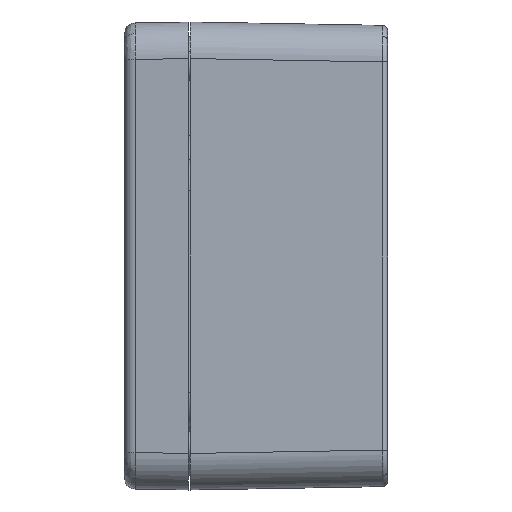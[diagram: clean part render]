
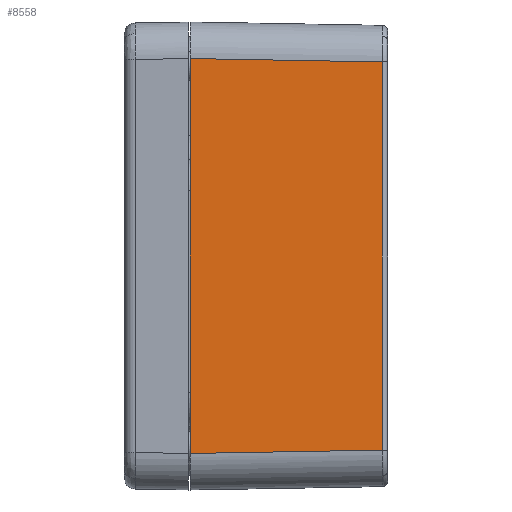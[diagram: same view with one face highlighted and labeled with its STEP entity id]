
A CAD part, left-side view. The second image highlights one B-rep face of the part: STEP entity #8558.
In plain terms, the highlighted planar face has unit normal (-1, -0.018, 0).
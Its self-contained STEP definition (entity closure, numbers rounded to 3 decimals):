
#145 = VERTEX_POINT ( 'NONE', #5013 ) ;
#265 = CARTESIAN_POINT ( 'NONE',  ( -75., 0., 27.001 ) ) ;
#329 = ORIENTED_EDGE ( 'NONE', *, *, #5374, .F. ) ;
#464 = ORIENTED_EDGE ( 'NONE', *, *, #6905, .T. ) ;
#1065 = PLANE ( 'NONE',  #5739 ) ;
#1147 = FACE_OUTER_BOUND ( 'NONE', #5955, .T. ) ;
#1455 = LINE ( 'NONE', #8277, #7227 ) ;
#2258 = CARTESIAN_POINT ( 'NONE',  ( -74.542, -26.263, 26.542 ) ) ;
#2525 = CARTESIAN_POINT ( 'NONE',  ( -74.542, -26.263, 32. ) ) ;
#2717 = DIRECTION ( 'NONE',  ( 0., 0., 1. ) ) ;
#2887 = VECTOR ( 'NONE', #2717, 1000. ) ;
#3039 = CARTESIAN_POINT ( 'NONE',  ( -74.982, -1.029, -26.983 ) ) ;
#3345 = DIRECTION ( 'NONE',  ( 0., 0., 1. ) ) ;
#3456 = DIRECTION ( 'NONE',  ( 0.017, -1., 0. ) ) ;
#4278 = CARTESIAN_POINT ( 'NONE',  ( -75., 0., 32. ) ) ;
#4550 = VERTEX_POINT ( 'NONE', #265 ) ;
#5009 = CARTESIAN_POINT ( 'NONE',  ( -75., 0., 32. ) ) ;
#5013 = CARTESIAN_POINT ( 'NONE',  ( -75., 0., -27.001 ) ) ;
#5046 = VECTOR ( 'NONE', #3345, 1000. ) ;
#5374 = EDGE_CURVE ( 'NONE', #145, #4550, #6816, .T. ) ;
#5739 = AXIS2_PLACEMENT_3D ( 'NONE', #5009, #8167, #3456 ) ;
#5955 = EDGE_LOOP ( 'NONE', ( #9053, #9081, #464, #329 ) ) ;
#6131 = VERTEX_POINT ( 'NONE', #2258 ) ;
#6259 = EDGE_CURVE ( 'NONE', #6852, #6131, #9479, .T. ) ;
#6616 = EDGE_CURVE ( 'NONE', #145, #6852, #9707, .T. ) ;
#6816 = LINE ( 'NONE', #4278, #2887 ) ;
#6852 = VERTEX_POINT ( 'NONE', #9727 ) ;
#6905 = EDGE_CURVE ( 'NONE', #6131, #4550, #1455, .T. ) ;
#7227 = VECTOR ( 'NONE', #9072, 1000. ) ;
#8167 = DIRECTION ( 'NONE',  ( -1., -0.017, 0. ) ) ;
#8277 = CARTESIAN_POINT ( 'NONE',  ( -75.002, 0.087, 27.002 ) ) ;
#8521 = DIRECTION ( 'NONE',  ( 0.017, -1., 0.017 ) ) ;
#8558 = ADVANCED_FACE ( 'NONE', ( #1147 ), #1065, .T. ) ;
#9053 = ORIENTED_EDGE ( 'NONE', *, *, #6616, .T. ) ;
#9072 = DIRECTION ( 'NONE',  ( -0.017, 1., 0.017 ) ) ;
#9081 = ORIENTED_EDGE ( 'NONE', *, *, #6259, .T. ) ;
#9464 = VECTOR ( 'NONE', #8521, 1000. ) ;
#9479 = LINE ( 'NONE', #2525, #5046 ) ;
#9707 = LINE ( 'NONE', #3039, #9464 ) ;
#9727 = CARTESIAN_POINT ( 'NONE',  ( -74.542, -26.263, -26.542 ) ) ;
